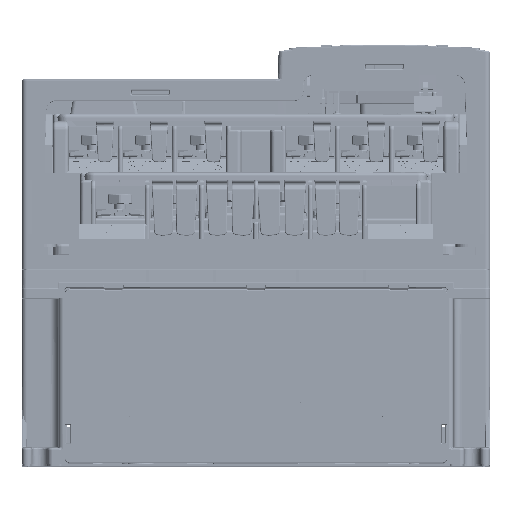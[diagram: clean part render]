
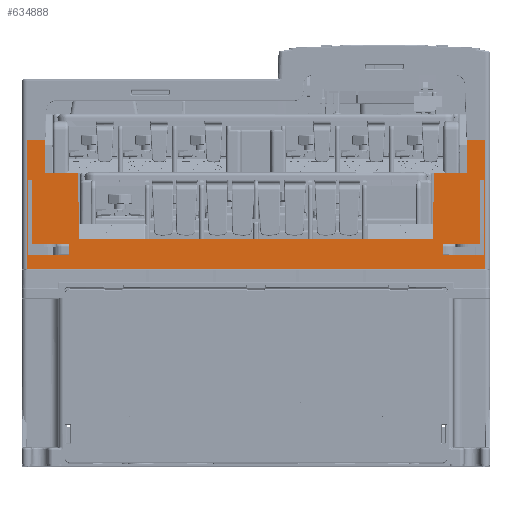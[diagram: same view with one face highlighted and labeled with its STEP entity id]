
A CAD part, top view. The second image highlights one B-rep face of the part: STEP entity #634888.
In plain terms, the highlighted planar face has unit normal (0, 0, 1).
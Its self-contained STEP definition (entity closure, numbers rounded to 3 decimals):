
#502174=DIRECTION('',(1.,0.,0.));
#502175=VECTOR('',#502174,35.013);
#502176=CARTESIAN_POINT('',(-94.713,26.8,181.));
#502177=LINE('',#502176,#502175);
#502181=DIRECTION('',(1.,0.,0.));
#502182=VECTOR('',#502181,119.4);
#502183=CARTESIAN_POINT('',(-59.7,26.8,181.));
#502184=LINE('',#502183,#502182);
#502188=DIRECTION('',(1.,0.,0.));
#502189=VECTOR('',#502188,35.013);
#502190=CARTESIAN_POINT('',(59.7,26.8,181.));
#502191=LINE('',#502190,#502189);
#502195=DIRECTION('',(0.005,1.,0.));
#502196=VECTOR('',#502195,35.7);
#502197=CARTESIAN_POINT('',(94.713,26.8,181.));
#502198=LINE('',#502197,#502196);
#502202=DIRECTION('',(1.,0.,0.));
#502203=VECTOR('',#502202,17.6);
#502204=CARTESIAN_POINT('',(94.9,62.5,181.));
#502205=LINE('',#502204,#502203);
#502209=DIRECTION('',(0.,1.,0.));
#502210=VECTOR('',#502209,17.3);
#502211=CARTESIAN_POINT('',(112.5,62.5,181.));
#502212=LINE('',#502211,#502210);
#502216=DIRECTION('',(1.,0.,0.));
#502217=VECTOR('',#502216,10.);
#502218=CARTESIAN_POINT('',(112.5,79.8,181.));
#502219=LINE('',#502218,#502217);
#502223=DIRECTION('',(-1.,0.,0.));
#502224=VECTOR('',#502223,245.);
#502225=CARTESIAN_POINT('',(122.5,10.8,181.));
#502226=LINE('',#502225,#502224);
#502230=DIRECTION('',(1.,0.,0.));
#502231=VECTOR('',#502230,10.);
#502232=CARTESIAN_POINT('',(-122.5,79.8,181.));
#502233=LINE('',#502232,#502231);
#502237=DIRECTION('',(0.,-1.,0.));
#502238=VECTOR('',#502237,17.3);
#502239=CARTESIAN_POINT('',(-112.5,79.8,181.));
#502240=LINE('',#502239,#502238);
#502244=DIRECTION('',(1.,0.,0.));
#502245=VECTOR('',#502244,17.6);
#502246=CARTESIAN_POINT('',(-112.5,62.5,181.));
#502247=LINE('',#502246,#502245);
#502251=DIRECTION('',(0.005,-1.,
0.));
#502252=VECTOR('',#502251,35.7);
#502253=CARTESIAN_POINT('',(-94.9,62.5,181.));
#502254=LINE('',#502253,#502252);
#502258=DIRECTION('',(0.,1.,0.));
#502259=VECTOR('',#502258,34.7);
#502260=CARTESIAN_POINT('',(-119.4,24.1,181.));
#502261=LINE('',#502260,#502259);
#502265=DIRECTION('',(-1.,0.,0.));
#502266=VECTOR('',#502265,2.6);
#502267=CARTESIAN_POINT('',(-119.4,58.8,181.));
#502268=LINE('',#502267,#502266);
#502272=DIRECTION('',(0.,-1.,0.));
#502273=VECTOR('',#502272,40.5);
#502274=CARTESIAN_POINT('',(-122.,58.8,181.));
#502275=LINE('',#502274,#502273);
#502279=DIRECTION('',(1.,0.,0.));
#502280=VECTOR('',#502279,22.);
#502281=CARTESIAN_POINT('',(-122.,18.3,181.));
#502282=LINE('',#502281,#502280);
#502286=DIRECTION('',(0.,1.,0.));
#502287=VECTOR('',#502286,5.8);
#502288=CARTESIAN_POINT('',(-100.,18.3,181.));
#502289=LINE('',#502288,#502287);
#502293=DIRECTION('',(-1.,0.,0.));
#502294=VECTOR('',#502293,19.4);
#502295=CARTESIAN_POINT('',(-100.,24.1,181.));
#502296=LINE('',#502295,#502294);
#502300=DIRECTION('',(-1.,0.,0.));
#502301=VECTOR('',#502300,2.6);
#502302=CARTESIAN_POINT('',(122.,58.8,181.));
#502303=LINE('',#502302,#502301);
#502307=DIRECTION('',(0.,-1.,0.));
#502308=VECTOR('',#502307,34.7);
#502309=CARTESIAN_POINT('',(119.4,58.8,181.));
#502310=LINE('',#502309,#502308);
#502314=DIRECTION('',(-1.,0.,0.));
#502315=VECTOR('',#502314,19.4);
#502316=CARTESIAN_POINT('',(119.4,24.1,181.));
#502317=LINE('',#502316,#502315);
#502321=DIRECTION('',(0.,-1.,0.));
#502322=VECTOR('',#502321,5.8);
#502323=CARTESIAN_POINT('',(100.,24.1,181.));
#502324=LINE('',#502323,#502322);
#502328=DIRECTION('',(1.,0.,0.));
#502329=VECTOR('',#502328,22.);
#502330=CARTESIAN_POINT('',(100.,18.3,181.));
#502331=LINE('',#502330,#502329);
#502335=DIRECTION('',(0.,1.,0.));
#502336=VECTOR('',#502335,40.5);
#502337=CARTESIAN_POINT('',(122.,18.3,181.));
#502338=LINE('',#502337,#502336);
#566079=DIRECTION('',(0.,-1.,0.));
#566080=VECTOR('',#566079,69.);
#566081=CARTESIAN_POINT('',(-122.5,79.8,181.));
#566082=LINE('',#566081,#566080);
#566093=DIRECTION('',(0.,1.,0.));
#566094=VECTOR('',#566093,69.);
#566095=CARTESIAN_POINT('',(122.5,10.8,181.));
#566096=LINE('',#566095,#566094);
#618604=CARTESIAN_POINT('',(-94.713,26.8,181.));
#618605=CARTESIAN_POINT('',(-59.7,26.8,181.));
#618606=VERTEX_POINT('',#618604);
#618607=VERTEX_POINT('',#618605);
#618608=CARTESIAN_POINT('',(59.7,26.8,181.));
#618609=VERTEX_POINT('',#618608);
#618610=CARTESIAN_POINT('',(94.713,26.8,181.));
#618611=VERTEX_POINT('',#618610);
#618612=CARTESIAN_POINT('',(94.9,62.5,181.));
#618613=VERTEX_POINT('',#618612);
#618614=CARTESIAN_POINT('',(112.5,62.5,181.));
#618615=VERTEX_POINT('',#618614);
#618616=CARTESIAN_POINT('',(112.5,79.8,181.));
#618617=VERTEX_POINT('',#618616);
#618618=CARTESIAN_POINT('',(122.5,79.8,181.));
#618619=VERTEX_POINT('',#618618);
#618620=CARTESIAN_POINT('',(122.5,10.8,181.));
#618621=VERTEX_POINT('',#618620);
#618622=CARTESIAN_POINT('',(-122.5,10.8,181.));
#618623=VERTEX_POINT('',#618622);
#618624=CARTESIAN_POINT('',(-122.5,79.8,181.));
#618625=VERTEX_POINT('',#618624);
#618626=CARTESIAN_POINT('',(-112.5,79.8,181.));
#618627=VERTEX_POINT('',#618626);
#618628=CARTESIAN_POINT('',(-112.5,62.5,181.));
#618629=VERTEX_POINT('',#618628);
#618630=CARTESIAN_POINT('',(-94.9,62.5,181.));
#618631=VERTEX_POINT('',#618630);
#618632=CARTESIAN_POINT('',(-119.4,24.1,181.));
#618633=CARTESIAN_POINT('',(-119.4,58.8,181.));
#618634=VERTEX_POINT('',#618632);
#618635=VERTEX_POINT('',#618633);
#618636=CARTESIAN_POINT('',(-122.,58.8,181.));
#618637=VERTEX_POINT('',#618636);
#618638=CARTESIAN_POINT('',(-122.,18.3,181.));
#618639=VERTEX_POINT('',#618638);
#618640=CARTESIAN_POINT('',(-100.,18.3,181.));
#618641=VERTEX_POINT('',#618640);
#618642=CARTESIAN_POINT('',(-100.,24.1,181.));
#618643=VERTEX_POINT('',#618642);
#618644=CARTESIAN_POINT('',(122.,58.8,181.));
#618645=CARTESIAN_POINT('',(119.4,58.8,181.));
#618646=VERTEX_POINT('',#618644);
#618647=VERTEX_POINT('',#618645);
#618648=CARTESIAN_POINT('',(119.4,24.1,181.));
#618649=VERTEX_POINT('',#618648);
#618650=CARTESIAN_POINT('',(100.,24.1,181.));
#618651=VERTEX_POINT('',#618650);
#618652=CARTESIAN_POINT('',(100.,18.3,181.));
#618653=VERTEX_POINT('',#618652);
#618654=CARTESIAN_POINT('',(122.,18.3,181.));
#618655=VERTEX_POINT('',#618654);
#634825=CARTESIAN_POINT('',(106.,-94.2,181.));
#634826=DIRECTION('',(0.,0.,1.));
#634827=DIRECTION('',(1.,0.,0.));
#634828=AXIS2_PLACEMENT_3D('',#634825,#634826,#634827);
#634829=PLANE('',#634828);
#634831=ORIENTED_EDGE('',*,*,#634830,.T.);
#634833=ORIENTED_EDGE('',*,*,#634832,.T.);
#634835=ORIENTED_EDGE('',*,*,#634834,.T.);
#634837=ORIENTED_EDGE('',*,*,#634836,.T.);
#634839=ORIENTED_EDGE('',*,*,#634838,.T.);
#634841=ORIENTED_EDGE('',*,*,#634840,.T.);
#634843=ORIENTED_EDGE('',*,*,#634842,.T.);
#634845=ORIENTED_EDGE('',*,*,#634844,.F.);
#634847=ORIENTED_EDGE('',*,*,#634846,.T.);
#634849=ORIENTED_EDGE('',*,*,#634848,.F.);
#634851=ORIENTED_EDGE('',*,*,#634850,.T.);
#634853=ORIENTED_EDGE('',*,*,#634852,.T.);
#634855=ORIENTED_EDGE('',*,*,#634854,.T.);
#634857=ORIENTED_EDGE('',*,*,#634856,.T.);
#634858=EDGE_LOOP('',(#634831,#634833,#634835,#634837,#634839,#634841,#634843,
#634845,#634847,#634849,#634851,#634853,#634855,#634857));
#634859=FACE_OUTER_BOUND('',#634858,.F.);
#634861=ORIENTED_EDGE('',*,*,#634860,.T.);
#634863=ORIENTED_EDGE('',*,*,#634862,.T.);
#634865=ORIENTED_EDGE('',*,*,#634864,.T.);
#634867=ORIENTED_EDGE('',*,*,#634866,.T.);
#634869=ORIENTED_EDGE('',*,*,#634868,.T.);
#634871=ORIENTED_EDGE('',*,*,#634870,.T.);
#634872=EDGE_LOOP('',(#634861,#634863,#634865,#634867,#634869,#634871));
#634873=FACE_BOUND('',#634872,.F.);
#634875=ORIENTED_EDGE('',*,*,#634874,.T.);
#634877=ORIENTED_EDGE('',*,*,#634876,.T.);
#634879=ORIENTED_EDGE('',*,*,#634878,.T.);
#634881=ORIENTED_EDGE('',*,*,#634880,.T.);
#634883=ORIENTED_EDGE('',*,*,#634882,.T.);
#634885=ORIENTED_EDGE('',*,*,#634884,.T.);
#634886=EDGE_LOOP('',(#634875,#634877,#634879,#634881,#634883,#634885));
#634887=FACE_BOUND('',#634886,.F.);
#634830=EDGE_CURVE('',#618606,#618607,#502177,.T.);
#634832=EDGE_CURVE('',#618607,#618609,#502184,.T.);
#634834=EDGE_CURVE('',#618609,#618611,#502191,.T.);
#634836=EDGE_CURVE('',#618611,#618613,#502198,.T.);
#634838=EDGE_CURVE('',#618613,#618615,#502205,.T.);
#634840=EDGE_CURVE('',#618615,#618617,#502212,.T.);
#634842=EDGE_CURVE('',#618617,#618619,#502219,.T.);
#634844=EDGE_CURVE('',#618621,#618619,#566096,.T.);
#634846=EDGE_CURVE('',#618621,#618623,#502226,.T.);
#634848=EDGE_CURVE('',#618625,#618623,#566082,.T.);
#634850=EDGE_CURVE('',#618625,#618627,#502233,.T.);
#634852=EDGE_CURVE('',#618627,#618629,#502240,.T.);
#634854=EDGE_CURVE('',#618629,#618631,#502247,.T.);
#634856=EDGE_CURVE('',#618631,#618606,#502254,.T.);
#634860=EDGE_CURVE('',#618634,#618635,#502261,.T.);
#634862=EDGE_CURVE('',#618635,#618637,#502268,.T.);
#634864=EDGE_CURVE('',#618637,#618639,#502275,.T.);
#634866=EDGE_CURVE('',#618639,#618641,#502282,.T.);
#634868=EDGE_CURVE('',#618641,#618643,#502289,.T.);
#634870=EDGE_CURVE('',#618643,#618634,#502296,.T.);
#634874=EDGE_CURVE('',#618646,#618647,#502303,.T.);
#634876=EDGE_CURVE('',#618647,#618649,#502310,.T.);
#634878=EDGE_CURVE('',#618649,#618651,#502317,.T.);
#634880=EDGE_CURVE('',#618651,#618653,#502324,.T.);
#634882=EDGE_CURVE('',#618653,#618655,#502331,.T.);
#634884=EDGE_CURVE('',#618655,#618646,#502338,.T.);
#634888=ADVANCED_FACE('',(#634859,#634873,#634887),#634829,.T.);
